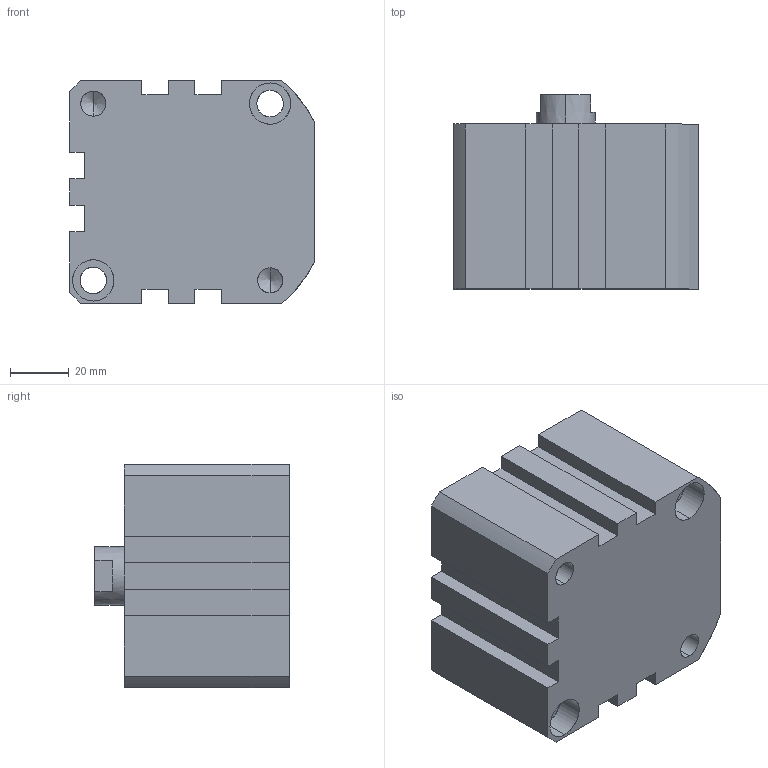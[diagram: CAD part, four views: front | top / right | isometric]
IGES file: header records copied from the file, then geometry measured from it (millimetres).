
Start section: SolidWorks IGES file using analytic representation for surfaces
Global section: file name: C:\Users\Toshiba\Desktop\XG#2-63-10.IGS; native system: SolidWorks 2014; preprocessor: SolidWorks 2014; author: Toshiba; date: 160524.095314; units: millimetre
Bounding box: 83 x 66 x 76 mm (x, y, z)
Surface area: 41083.3 mm2 (no closed solid volume)
Topology: 0 solids, 0 shells, 112 faces, 1871 edges, 1857 vertices
Faces by surface type: revolution 66, bspline 46
